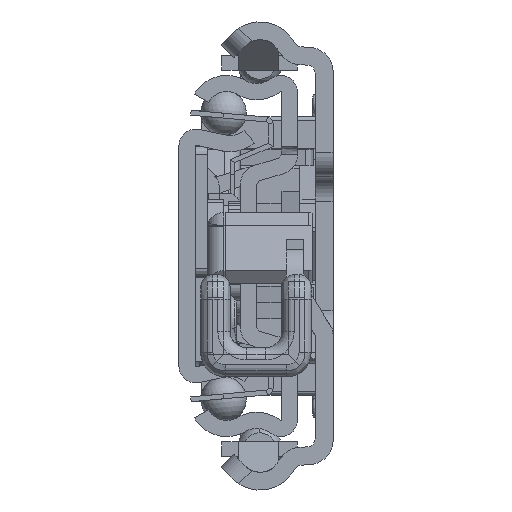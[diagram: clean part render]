
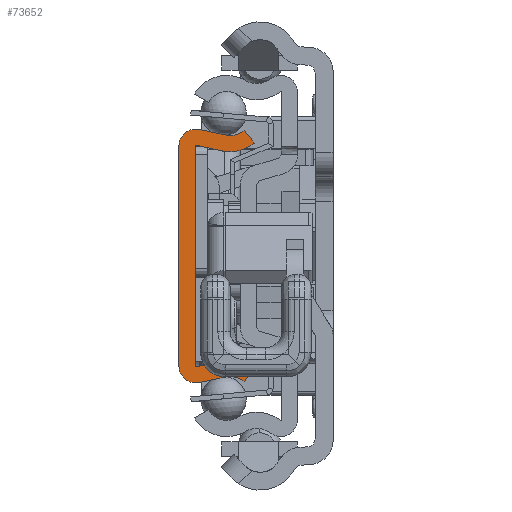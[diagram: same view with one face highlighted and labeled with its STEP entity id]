
A CAD part, left-side view. The second image highlights one B-rep face of the part: STEP entity #73652.
In plain terms, the highlighted planar face has unit normal (-1, 0, 0).
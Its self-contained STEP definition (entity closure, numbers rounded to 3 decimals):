
#68059=CARTESIAN_POINT('',(0.,-6.29,-17.65));
#68060=DIRECTION('',(-1.,0.,0.));
#68061=DIRECTION('',(0.,-0.629,0.778));
#68062=AXIS2_PLACEMENT_3D('',#68059,#68060,#68061);
#68064=DIRECTION('',(0.,0.977,-0.213));
#68065=VECTOR('',#68064,3.218);
#68066=CARTESIAN_POINT('',(0.,-5.692,-14.915));
#68067=LINE('',#68066,#68065);
#68068=CARTESIAN_POINT('',(0.,-2.1,-13.55));
#68069=DIRECTION('',(1.,0.,0.));
#68070=DIRECTION('',(0.,-0.213,-0.977));
#68071=AXIS2_PLACEMENT_3D('',#68068,#68069,#68070);
#68073=DIRECTION('',(0.,0.,1.));
#68074=VECTOR('',#68073,27.1);
#68075=CARTESIAN_POINT('',(0.,0.,-13.55));
#68076=LINE('',#68075,#68074);
#68077=CARTESIAN_POINT('',(0.,-2.1,13.55));
#68078=DIRECTION('',(1.,0.,0.));
#68079=DIRECTION('',(0.,1.,0.));
#68080=AXIS2_PLACEMENT_3D('',#68077,#68078,#68079);
#68082=DIRECTION('',(0.,-0.977,-0.213));
#68083=VECTOR('',#68082,3.218);
#68084=CARTESIAN_POINT('',(0.,-2.548,15.602));
#68085=LINE('',#68084,#68083);
#68086=CARTESIAN_POINT('',(0.,-6.29,17.65));
#68087=DIRECTION('',(-1.,0.,0.));
#68088=DIRECTION('',(0.,0.213,-0.977));
#68089=AXIS2_PLACEMENT_3D('',#68086,#68087,#68088);
#68091=DIRECTION('',(0.,-0.629,-0.778));
#68092=VECTOR('',#68091,2.);
#68093=CARTESIAN_POINT('',(0.,-8.05,15.472));
#68094=LINE('',#68093,#68092);
#68095=CARTESIAN_POINT('',(0.,-6.29,17.65));
#68096=DIRECTION('',(1.,0.,0.));
#68097=DIRECTION('',(0.,-0.629,-0.778));
#68098=AXIS2_PLACEMENT_3D('',#68095,#68096,#68097);
#68100=DIRECTION('',(0.,0.977,0.213));
#68101=VECTOR('',#68100,3.218);
#68102=CARTESIAN_POINT('',(0.,-5.265,12.961));
#68103=LINE('',#68102,#68101);
#68104=CARTESIAN_POINT('',(0.,-2.1,13.55));
#68105=DIRECTION('',(-1.,0.,0.));
#68106=DIRECTION('',(0.,-0.213,0.977));
#68107=AXIS2_PLACEMENT_3D('',#68104,#68105,#68106);
#68109=DIRECTION('',(0.,0.,-1.));
#68110=VECTOR('',#68109,27.1);
#68111=CARTESIAN_POINT('',(0.,-2.,13.55));
#68112=LINE('',#68111,#68110);
#68113=CARTESIAN_POINT('',(0.,-2.1,-13.55));
#68114=DIRECTION('',(-1.,0.,0.));
#68115=DIRECTION('',(0.,1.,0.));
#68116=AXIS2_PLACEMENT_3D('',#68113,#68114,#68115);
#68118=DIRECTION('',(0.,-0.977,0.213));
#68119=VECTOR('',#68118,3.218);
#68120=CARTESIAN_POINT('',(0.,-2.121,-13.648));
#68121=LINE('',#68120,#68119);
#68122=CARTESIAN_POINT('',(0.,-6.29,-17.65));
#68123=DIRECTION('',(1.,0.,0.));
#68124=DIRECTION('',(0.,0.213,0.977));
#68125=AXIS2_PLACEMENT_3D('',#68122,#68123,#68124);
#68127=DIRECTION('',(0.,0.629,-0.778));
#68128=VECTOR('',#68127,2.);
#68129=CARTESIAN_POINT('',(0.,-9.307,-13.917));
#68130=LINE('',#68129,#68128);
#72585=CARTESIAN_POINT('',(0.,-8.05,-15.472));
#72586=CARTESIAN_POINT('',(0.,-5.692,-14.915));
#72587=VERTEX_POINT('',#72585);
#72588=VERTEX_POINT('',#72586);
#72589=CARTESIAN_POINT('',(0.,-2.548,-15.602));
#72590=VERTEX_POINT('',#72589);
#72591=CARTESIAN_POINT('',(0.,0.,-13.55));
#72592=VERTEX_POINT('',#72591);
#72593=CARTESIAN_POINT('',(0.,0.,13.55));
#72594=VERTEX_POINT('',#72593);
#72595=CARTESIAN_POINT('',(0.,-2.548,15.602));
#72596=VERTEX_POINT('',#72595);
#72597=CARTESIAN_POINT('',(0.,-5.692,14.915));
#72598=VERTEX_POINT('',#72597);
#72599=CARTESIAN_POINT('',(0.,-8.05,15.472));
#72600=VERTEX_POINT('',#72599);
#72601=CARTESIAN_POINT('',(0.,-9.307,13.917));
#72602=VERTEX_POINT('',#72601);
#72603=CARTESIAN_POINT('',(0.,-5.265,12.961));
#72604=VERTEX_POINT('',#72603);
#72605=CARTESIAN_POINT('',(0.,-2.121,13.648));
#72606=VERTEX_POINT('',#72605);
#72607=CARTESIAN_POINT('',(0.,-2.,13.55));
#72608=VERTEX_POINT('',#72607);
#72609=CARTESIAN_POINT('',(0.,-2.,-13.55));
#72610=VERTEX_POINT('',#72609);
#72611=CARTESIAN_POINT('',(0.,-2.121,-13.648));
#72612=VERTEX_POINT('',#72611);
#72613=CARTESIAN_POINT('',(0.,-5.265,-12.961));
#72614=VERTEX_POINT('',#72613);
#72615=CARTESIAN_POINT('',(0.,-9.307,-13.917));
#72616=VERTEX_POINT('',#72615);
#73613=CARTESIAN_POINT('',(0.,0.,0.));
#73614=DIRECTION('',(1.,0.,0.));
#73615=DIRECTION('',(0.,-1.,0.));
#73616=AXIS2_PLACEMENT_3D('',#73613,#73614,#73615);
#73617=PLANE('',#73616);
#73619=ORIENTED_EDGE('',*,*,#73618,.T.);
#73621=ORIENTED_EDGE('',*,*,#73620,.T.);
#73623=ORIENTED_EDGE('',*,*,#73622,.T.);
#73625=ORIENTED_EDGE('',*,*,#73624,.T.);
#73627=ORIENTED_EDGE('',*,*,#73626,.T.);
#73629=ORIENTED_EDGE('',*,*,#73628,.T.);
#73631=ORIENTED_EDGE('',*,*,#73630,.T.);
#73633=ORIENTED_EDGE('',*,*,#73632,.T.);
#73635=ORIENTED_EDGE('',*,*,#73634,.T.);
#73637=ORIENTED_EDGE('',*,*,#73636,.T.);
#73639=ORIENTED_EDGE('',*,*,#73638,.T.);
#73641=ORIENTED_EDGE('',*,*,#73640,.T.);
#73643=ORIENTED_EDGE('',*,*,#73642,.T.);
#73645=ORIENTED_EDGE('',*,*,#73644,.T.);
#73647=ORIENTED_EDGE('',*,*,#73646,.T.);
#73649=ORIENTED_EDGE('',*,*,#73648,.T.);
#73650=EDGE_LOOP('',(#73619,#73621,#73623,#73625,#73627,#73629,#73631,#73633,
#73635,#73637,#73639,#73641,#73643,#73645,#73647,#73649));
#73651=FACE_OUTER_BOUND('',#73650,.F.);
#68063=CIRCLE('',#68062,2.8);
#68072=CIRCLE('',#68071,2.1);
#68081=CIRCLE('',#68080,2.1);
#68090=CIRCLE('',#68089,2.8);
#68099=CIRCLE('',#68098,4.8);
#68108=CIRCLE('',#68107,0.1);
#68117=CIRCLE('',#68116,0.1);
#68126=CIRCLE('',#68125,4.8);
#73618=EDGE_CURVE('',#72587,#72588,#68063,.T.);
#73620=EDGE_CURVE('',#72588,#72590,#68067,.T.);
#73622=EDGE_CURVE('',#72590,#72592,#68072,.T.);
#73624=EDGE_CURVE('',#72592,#72594,#68076,.T.);
#73626=EDGE_CURVE('',#72594,#72596,#68081,.T.);
#73628=EDGE_CURVE('',#72596,#72598,#68085,.T.);
#73630=EDGE_CURVE('',#72598,#72600,#68090,.T.);
#73632=EDGE_CURVE('',#72600,#72602,#68094,.T.);
#73634=EDGE_CURVE('',#72602,#72604,#68099,.T.);
#73636=EDGE_CURVE('',#72604,#72606,#68103,.T.);
#73638=EDGE_CURVE('',#72606,#72608,#68108,.T.);
#73640=EDGE_CURVE('',#72608,#72610,#68112,.T.);
#73642=EDGE_CURVE('',#72610,#72612,#68117,.T.);
#73644=EDGE_CURVE('',#72612,#72614,#68121,.T.);
#73646=EDGE_CURVE('',#72614,#72616,#68126,.T.);
#73648=EDGE_CURVE('',#72616,#72587,#68130,.T.);
#73652=ADVANCED_FACE('',(#73651),#73617,.F.);
